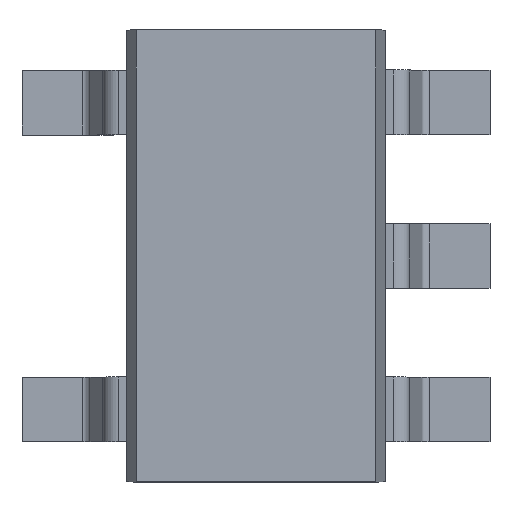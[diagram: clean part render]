
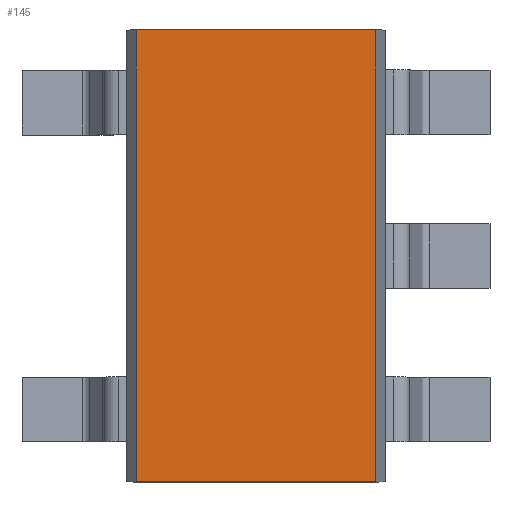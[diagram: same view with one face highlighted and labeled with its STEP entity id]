
A CAD part, top view. The second image highlights one B-rep face of the part: STEP entity #145.
In plain terms, the highlighted planar face has unit normal (0, 0, 1).
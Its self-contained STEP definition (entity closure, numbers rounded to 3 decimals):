
#120 = VERTEX_POINT('',#121);
#121 = CARTESIAN_POINT('',(-0.742,-1.4,1.));
#127 = EDGE_CURVE('',#128,#120,#130,.T.);
#128 = VERTEX_POINT('',#129);
#129 = CARTESIAN_POINT('',(-0.742,1.4,1.));
#130 = LINE('',#131,#132);
#131 = CARTESIAN_POINT('',(-0.742,1.4,1.));
#132 = VECTOR('',#133,1.);
#133 = DIRECTION('',(0.,-1.,0.));
#145 = ADVANCED_FACE('',(#146),#171,.T.);
#146 = FACE_BOUND('',#147,.T.);
#147 = EDGE_LOOP('',(#148,#149,#157,#165));
#148 = ORIENTED_EDGE('',*,*,#127,.T.);
#149 = ORIENTED_EDGE('',*,*,#150,.T.);
#150 = EDGE_CURVE('',#120,#151,#153,.T.);
#151 = VERTEX_POINT('',#152);
#152 = CARTESIAN_POINT('',(0.742,-1.4,1.));
#153 = LINE('',#154,#155);
#154 = CARTESIAN_POINT('',(-0.742,-1.4,1.));
#155 = VECTOR('',#156,1.);
#156 = DIRECTION('',(1.,0.,0.));
#157 = ORIENTED_EDGE('',*,*,#158,.F.);
#158 = EDGE_CURVE('',#159,#151,#161,.T.);
#159 = VERTEX_POINT('',#160);
#160 = CARTESIAN_POINT('',(0.742,1.4,1.));
#161 = LINE('',#162,#163);
#162 = CARTESIAN_POINT('',(0.742,1.4,1.));
#163 = VECTOR('',#164,1.);
#164 = DIRECTION('',(0.,-1.,0.));
#165 = ORIENTED_EDGE('',*,*,#166,.F.);
#166 = EDGE_CURVE('',#128,#159,#167,.T.);
#167 = LINE('',#168,#169);
#168 = CARTESIAN_POINT('',(-0.742,1.4,1.));
#169 = VECTOR('',#170,1.);
#170 = DIRECTION('',(1.,0.,0.));
#171 = PLANE('',#172);
#172 = AXIS2_PLACEMENT_3D('',#173,#174,#175);
#173 = CARTESIAN_POINT('',(-0.742,1.4,1.));
#174 = DIRECTION('',(0.,0.,1.));
#175 = DIRECTION('',(1.,0.,0.));
